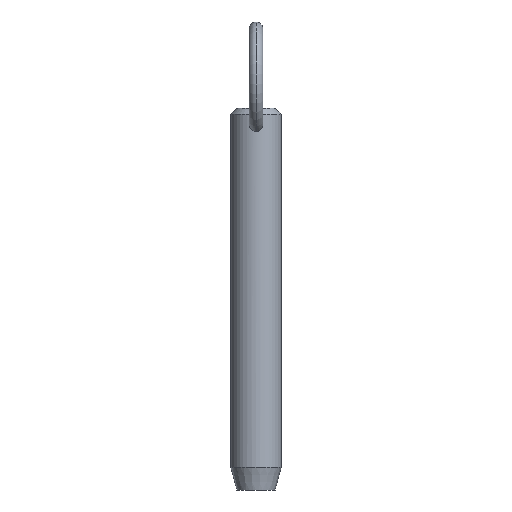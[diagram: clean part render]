
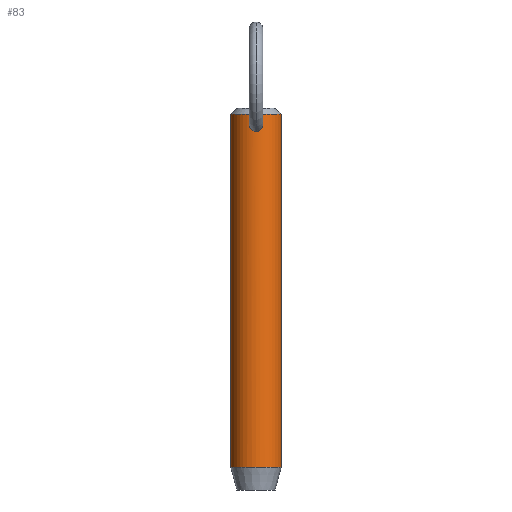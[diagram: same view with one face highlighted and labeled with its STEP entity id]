
A CAD part, front view. The second image highlights one B-rep face of the part: STEP entity #83.
In plain terms, the highlighted cylindrical face has radius 5.55 mm (diameter 11.1 mm), a partial arc.
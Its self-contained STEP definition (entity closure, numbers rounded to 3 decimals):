
#2 = CARTESIAN_POINT ( 'NONE',  ( 0., -5.55, 68.245 ) ) ;
#4 = ORIENTED_EDGE ( 'NONE', *, *, #234, .T. ) ;
#7 = CARTESIAN_POINT ( 'NONE',  ( -0.211, -5.547, 68.229 ) ) ;
#9 = CARTESIAN_POINT ( 'NONE',  ( -1.485, -5.348, 66.679 ) ) ;
#13 = FACE_BOUND ( 'NONE', #320, .T. ) ;
#17 = FACE_OUTER_BOUND ( 'NONE', #124, .T. ) ;
#18 = CARTESIAN_POINT ( 'NONE',  ( 5.55, 0., -9.2 ) ) ;
#23 = CARTESIAN_POINT ( 'NONE',  ( 1.295, -5.397, 67.282 ) ) ;
#24 = CARTESIAN_POINT ( 'NONE',  ( 0.807, -5.492, 65.006 ) ) ;
#26 = CIRCLE ( 'NONE', #216, 5.55 ) ;
#27 = CARTESIAN_POINT ( 'NONE',  ( 0.786, -5.497, 67.957 ) ) ;
#32 = VERTEX_POINT ( 'NONE', #443 ) ;
#35 = DIRECTION ( 'NONE',  ( 0., 0., -1. ) ) ;
#38 = CARTESIAN_POINT ( 'NONE',  ( -0.523, -5.526, 64.866 ) ) ;
#40 = CARTESIAN_POINT ( 'NONE',  ( -0.513, -5.527, 68.123 ) ) ;
#45 = CARTESIAN_POINT ( 'NONE',  ( -0.106, -5.55, 68.245 ) ) ;
#48 = VECTOR ( 'NONE', #35, 1000. ) ;
#58 = CARTESIAN_POINT ( 'NONE',  ( 1.477, -5.35, 66.044 ) ) ;
#64 = CARTESIAN_POINT ( 'NONE',  ( 1.503, -5.343, 66.359 ) ) ;
#65 = ORIENTED_EDGE ( 'NONE', *, *, #261, .F. ) ;
#67 = EDGE_CURVE ( 'NONE', #274, #258, #427, .T. ) ;
#68 = CARTESIAN_POINT ( 'NONE',  ( 0.213, -5.547, 64.788 ) ) ;
#70 = CARTESIAN_POINT ( 'NONE',  ( 1.455, -5.356, 65.938 ) ) ;
#83 = ADVANCED_FACE ( 'NONE', ( #17, #13 ), #180, .T. ) ;
#84 = CARTESIAN_POINT ( 'NONE',  ( -1.44, -5.36, 66.887 ) ) ;
#93 = CARTESIAN_POINT ( 'NONE',  ( 0.106, -5.55, 68.245 ) ) ;
#94 = ORIENTED_EDGE ( 'NONE', *, *, #285, .T. ) ;
#105 = CARTESIAN_POINT ( 'NONE',  ( 0.515, -5.527, 68.122 ) ) ;
#109 = CARTESIAN_POINT ( 'NONE',  ( -0.107, -5.55, 64.777 ) ) ;
#111 = CARTESIAN_POINT ( 'NONE',  ( 0.421, -5.535, 64.832 ) ) ;
#113 = CARTESIAN_POINT ( 'NONE',  ( 0.523, -5.526, 64.866 ) ) ;
#117 = AXIS2_PLACEMENT_3D ( 'NONE', #415, #344, #145 ) ;
#124 = EDGE_LOOP ( 'NONE', ( #65, #322, #329, #94 ) ) ;
#134 = VECTOR ( 'NONE', #203, 1000. ) ;
#145 = DIRECTION ( 'NONE',  ( -1., 0., 0. ) ) ;
#146 = CARTESIAN_POINT ( 'NONE',  ( 0.214, -5.547, 68.228 ) ) ;
#150 = CARTESIAN_POINT ( 'NONE',  ( -1.054, -5.449, 65.204 ) ) ;
#160 = VERTEX_POINT ( 'NONE', #18 ) ;
#174 = CARTESIAN_POINT ( 'NONE',  ( 5.55, 0., 68.55 ) ) ;
#180 = CYLINDRICAL_SURFACE ( 'NONE', #479, 5.55 ) ;
#187 = CARTESIAN_POINT ( 'NONE',  ( -1.26, -5.407, 65.442 ) ) ;
#203 = DIRECTION ( 'NONE',  ( 0., 0., -1. ) ) ;
#207 = CARTESIAN_POINT ( 'NONE',  ( -0.785, -5.497, 67.958 ) ) ;
#216 = AXIS2_PLACEMENT_3D ( 'NONE', #306, #339, #425 ) ;
#217 = VERTEX_POINT ( 'NONE', #174 ) ;
#222 = EDGE_CURVE ( 'NONE', #217, #274, #26, .T. ) ;
#223 = CARTESIAN_POINT ( 'NONE',  ( 1.194, -5.422, 67.471 ) ) ;
#228 = CARTESIAN_POINT ( 'NONE',  ( 1.486, -5.347, 66.674 ) ) ;
#230 = CARTESIAN_POINT ( 'NONE',  ( 0.977, -5.464, 65.132 ) ) ;
#234 = EDGE_CURVE ( 'NONE', #439, #32, #432, .T. ) ;
#236 = B_SPLINE_CURVE_WITH_KNOTS ( 'NONE', 3,
 ( #315, #109, #525, #463, #38, #316, #478, #317, #150, #187, #517, #346, #384, #426, #247, #9, #84, #292, #361, #481, #207, #40, #286, #7, #45, #2 ),
 .UNSPECIFIED., .F., .F.,
 ( 4, 2, 2, 2, 2, 2, 2, 2, 2, 2, 2, 2, 4 ),
 ( 0.01, 0.01, 0.01, 0.011, 0.011, 0.012, 0.012, 0.012, 0.013, 0.013, 0.014, 0.014, 0.015 ),
 .UNSPECIFIED. ) ;
#240 = CARTESIAN_POINT ( 'NONE',  ( 5.55, 0., 63.5 ) ) ;
#246 = CARTESIAN_POINT ( 'NONE',  ( 0., 0., 63.5 ) ) ;
#247 = CARTESIAN_POINT ( 'NONE',  ( -1.503, -5.343, 66.359 ) ) ;
#258 = VERTEX_POINT ( 'NONE', #474 ) ;
#261 = EDGE_CURVE ( 'NONE', #217, #160, #280, .T. ) ;
#264 = CARTESIAN_POINT ( 'NONE',  ( 1.5, -5.343, 66.254 ) ) ;
#273 = CARTESIAN_POINT ( 'NONE',  ( 0.417, -5.535, 68.167 ) ) ;
#274 = VERTEX_POINT ( 'NONE', #453 ) ;
#280 = LINE ( 'NONE', #240, #48 ) ;
#285 = EDGE_CURVE ( 'NONE', #258, #160, #447, .T. ) ;
#286 = CARTESIAN_POINT ( 'NONE',  ( -0.416, -5.535, 68.167 ) ) ;
#288 = DIRECTION ( 'NONE',  ( 0., 0., -1. ) ) ;
#292 = CARTESIAN_POINT ( 'NONE',  ( -1.294, -5.398, 67.286 ) ) ;
#305 = CARTESIAN_POINT ( 'NONE',  ( 0.107, -5.55, 64.777 ) ) ;
#306 = CARTESIAN_POINT ( 'NONE',  ( 0., 0., 68.55 ) ) ;
#315 = CARTESIAN_POINT ( 'NONE',  ( 0., -5.55, 64.777 ) ) ;
#316 = CARTESIAN_POINT ( 'NONE',  ( -0.716, -5.504, 64.952 ) ) ;
#317 = CARTESIAN_POINT ( 'NONE',  ( -0.976, -5.464, 65.131 ) ) ;
#320 = EDGE_LOOP ( 'NONE', ( #4, #472 ) ) ;
#322 = ORIENTED_EDGE ( 'NONE', *, *, #222, .T. ) ;
#329 = ORIENTED_EDGE ( 'NONE', *, *, #67, .T. ) ;
#339 = DIRECTION ( 'NONE',  ( 0., 0., -1. ) ) ;
#344 = DIRECTION ( 'NONE',  ( 0., 0., 1. ) ) ;
#346 = CARTESIAN_POINT ( 'NONE',  ( -1.455, -5.356, 65.936 ) ) ;
#347 = CARTESIAN_POINT ( 'NONE',  ( 1.363, -5.38, 65.634 ) ) ;
#361 = CARTESIAN_POINT ( 'NONE',  ( -1.195, -5.421, 67.471 ) ) ;
#365 = CARTESIAN_POINT ( 'NONE',  ( -5.55, 0., 63.5 ) ) ;
#368 = CARTESIAN_POINT ( 'NONE',  ( 0., -5.55, 68.245 ) ) ;
#381 = CARTESIAN_POINT ( 'NONE',  ( 0., -5.55, 64.777 ) ) ;
#383 = CARTESIAN_POINT ( 'NONE',  ( 1.055, -5.449, 65.205 ) ) ;
#384 = CARTESIAN_POINT ( 'NONE',  ( -1.477, -5.35, 66.042 ) ) ;
#395 = DIRECTION ( 'NONE',  ( -1., 0., 0. ) ) ;
#409 = EDGE_CURVE ( 'NONE', #32, #439, #236, .T. ) ;
#415 = CARTESIAN_POINT ( 'NONE',  ( 0., 0., -9.2 ) ) ;
#419 = CARTESIAN_POINT ( 'NONE',  ( 0.941, -5.471, 67.807 ) ) ;
#425 = DIRECTION ( 'NONE',  ( 1., 0., 0. ) ) ;
#426 = CARTESIAN_POINT ( 'NONE',  ( -1.5, -5.343, 66.253 ) ) ;
#427 = LINE ( 'NONE', #365, #134 ) ;
#432 = B_SPLINE_CURVE_WITH_KNOTS ( 'NONE', 3,
 ( #368, #93, #146, #273, #105, #27, #419, #223, #23, #510, #228, #64, #264, #58, #70, #347, #462, #383, #230, #24, #518, #113, #111, #68, #305, #381 ),
 .UNSPECIFIED., .F., .F.,
 ( 4, 2, 2, 2, 2, 2, 2, 2, 2, 2, 2, 2, 4 ),
 ( 0.005, 0.005, 0.005, 0.006, 0.006, 0.007, 0.007, 0.008, 0.008, 0.009, 0.009, 0.009, 0.01 ),
 .UNSPECIFIED. ) ;
#439 = VERTEX_POINT ( 'NONE', #476 ) ;
#443 = CARTESIAN_POINT ( 'NONE',  ( 0., -5.55, 64.777 ) ) ;
#447 = CIRCLE ( 'NONE', #117, 5.55 ) ;
#453 = CARTESIAN_POINT ( 'NONE',  ( -5.55, 0., 68.55 ) ) ;
#462 = CARTESIAN_POINT ( 'NONE',  ( 1.26, -5.407, 65.443 ) ) ;
#463 = CARTESIAN_POINT ( 'NONE',  ( -0.42, -5.535, 64.832 ) ) ;
#472 = ORIENTED_EDGE ( 'NONE', *, *, #409, .T. ) ;
#474 = CARTESIAN_POINT ( 'NONE',  ( -5.55, 0., -9.2 ) ) ;
#476 = CARTESIAN_POINT ( 'NONE',  ( 0., -5.55, 68.245 ) ) ;
#478 = CARTESIAN_POINT ( 'NONE',  ( -0.807, -5.492, 65.005 ) ) ;
#479 = AXIS2_PLACEMENT_3D ( 'NONE', #246, #288, #395 ) ;
#481 = CARTESIAN_POINT ( 'NONE',  ( -0.939, -5.472, 67.81 ) ) ;
#510 = CARTESIAN_POINT ( 'NONE',  ( 1.44, -5.36, 66.886 ) ) ;
#517 = CARTESIAN_POINT ( 'NONE',  ( -1.362, -5.381, 65.632 ) ) ;
#518 = CARTESIAN_POINT ( 'NONE',  ( 0.716, -5.504, 64.952 ) ) ;
#525 = CARTESIAN_POINT ( 'NONE',  ( -0.212, -5.547, 64.788 ) ) ;
